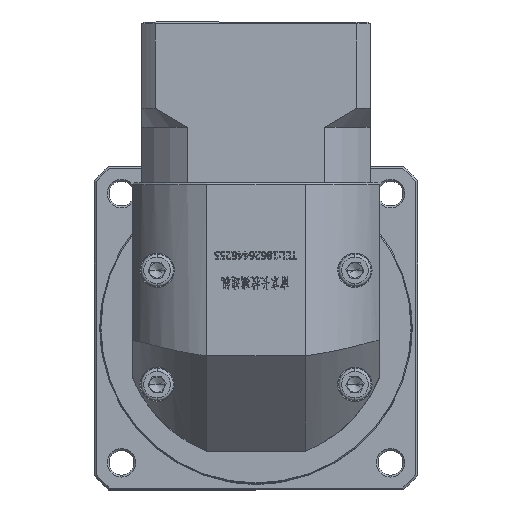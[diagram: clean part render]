
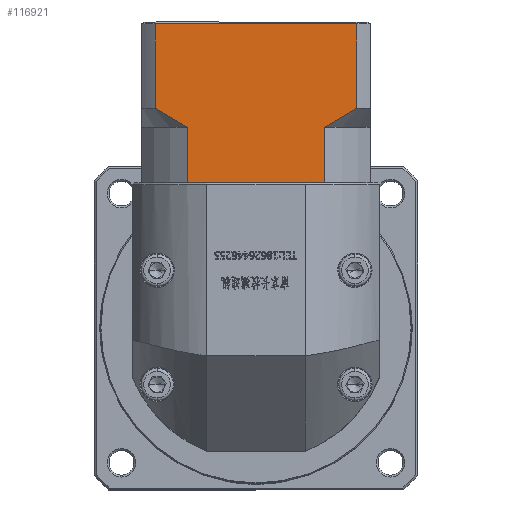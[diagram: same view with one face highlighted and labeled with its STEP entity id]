
A CAD part, top view. The second image highlights one B-rep face of the part: STEP entity #116921.
In plain terms, the highlighted planar face has unit normal (0, 0, 1).
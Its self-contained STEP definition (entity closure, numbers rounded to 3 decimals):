
#481 = ORIENTED_EDGE ( 'NONE', *, *, #75969, .T. ) ;
#1330 = CARTESIAN_POINT ( 'NONE',  ( 9.898, 56.857, 245.652 ) ) ;
#6297 = LINE ( 'NONE', #71130, #114852 ) ;
#7659 = ORIENTED_EDGE ( 'NONE', *, *, #138812, .F. ) ;
#7684 = DIRECTION ( 'NONE',  ( 1., 0., 0. ) ) ;
#8527 = EDGE_CURVE ( 'NONE', #163645, #78874, #30485, .T. ) ;
#11732 = CARTESIAN_POINT ( 'NONE',  ( -41.654, 57.759, 245.652 ) ) ;
#16339 = LINE ( 'NONE', #35744, #48333 ) ;
#24704 = VERTEX_POINT ( 'NONE', #101212 ) ;
#27763 = DIRECTION ( 'NONE',  ( 0., 0., -1. ) ) ;
#30485 = LINE ( 'NONE', #102888, #66654 ) ;
#30964 = VERTEX_POINT ( 'NONE', #76531 ) ;
#34174 = CARTESIAN_POINT ( 'NONE',  ( -41.654, 52.759, 245.652 ) ) ;
#35744 = CARTESIAN_POINT ( 'NONE',  ( -45.197, 79.959, 245.652 ) ) ;
#35857 = CARTESIAN_POINT ( 'NONE',  ( -38.916, 55.986, 245.652 ) ) ;
#39224 = VERTEX_POINT ( 'NONE', #104900 ) ;
#40221 = VERTEX_POINT ( 'NONE', #11732 ) ;
#40762 = PLANE ( 'NONE',  #171713 ) ;
#40970 = CARTESIAN_POINT ( 'NONE',  ( 1.84, 38.259, 245.652 ) ) ;
#43911 = ORIENTED_EDGE ( 'NONE', *, *, #165757, .T. ) ;
#48212 = VECTOR ( 'NONE', #115605, 1000. ) ;
#48333 = VECTOR ( 'NONE', #49482, 1000. ) ;
#49482 = DIRECTION ( 'NONE',  ( -1., 0., 0. ) ) ;
#49612 = CARTESIAN_POINT ( 'NONE',  ( -34.677, 53.507, 245.652 ) ) ;
#60087 = CARTESIAN_POINT ( 'NONE',  ( -33.225, 52.759, 245.652 ) ) ;
#65486 = CARTESIAN_POINT ( 'NONE',  ( -45.197, 38.259, 245.652 ) ) ;
#66073 = VERTEX_POINT ( 'NONE', #138917 ) ;
#66654 = VECTOR ( 'NONE', #7684, 1000. ) ;
#71130 = CARTESIAN_POINT ( 'NONE',  ( 2.831, 52.759, 245.652 ) ) ;
#72274 = FACE_OUTER_BOUND ( 'NONE', #122436, .T. ) ;
#75400 = EDGE_CURVE ( 'NONE', #109732, #30964, #138868, .T. ) ;
#75969 = EDGE_CURVE ( 'NONE', #24704, #163645, #134882, .T. ) ;
#76531 = CARTESIAN_POINT ( 'NONE',  ( 11.261, 57.759, 245.652 ) ) ;
#77671 = CARTESIAN_POINT ( 'NONE',  ( 2.831, 38.259, 245.652 ) ) ;
#78874 = VERTEX_POINT ( 'NONE', #40970 ) ;
#79331 = CARTESIAN_POINT ( 'NONE',  ( 11.261, 52.759, 245.652 ) ) ;
#81280 = VERTEX_POINT ( 'NONE', #77671 ) ;
#82910 = CARTESIAN_POINT ( 'NONE',  ( 8.518, 55.983, 245.652 ) ) ;
#84423 = LINE ( 'NONE', #34174, #48212 ) ;
#84878 = DIRECTION ( 'NONE',  ( 0., -1., 0. ) ) ;
#86686 = VERTEX_POINT ( 'NONE', #94737 ) ;
#86754 = CARTESIAN_POINT ( 'NONE',  ( 2.831, 52.759, 245.652 ) ) ;
#86822 = VECTOR ( 'NONE', #103362, 1000. ) ;
#86912 = DIRECTION ( 'NONE',  ( 0., 1., 0. ) ) ;
#90487 = ORIENTED_EDGE ( 'NONE', *, *, #91616, .T. ) ;
#90694 = LINE ( 'NONE', #60087, #162908 ) ;
#91616 = EDGE_CURVE ( 'NONE', #40221, #39224, #136248, .T. ) ;
#92066 = VECTOR ( 'NONE', #106603, 1000. ) ;
#94737 = CARTESIAN_POINT ( 'NONE',  ( 11.261, 79.959, 245.652 ) ) ;
#96599 = CARTESIAN_POINT ( 'NONE',  ( 11.261, 57.759, 245.652 ) ) ;
#98872 = VECTOR ( 'NONE', #160594, 1000. ) ;
#100143 = CARTESIAN_POINT ( 'NONE',  ( -32.234, 38.259, 245.652 ) ) ;
#100449 = EDGE_CURVE ( 'NONE', #40221, #66073, #84423, .T. ) ;
#101212 = CARTESIAN_POINT ( 'NONE',  ( -33.225, 38.259, 245.652 ) ) ;
#102888 = CARTESIAN_POINT ( 'NONE',  ( -45.197, 38.259, 245.652 ) ) ;
#103362 = DIRECTION ( 'NONE',  ( 1., 0., 0. ) ) ;
#103720 = CARTESIAN_POINT ( 'NONE',  ( -41.654, 57.759, 245.652 ) ) ;
#104900 = CARTESIAN_POINT ( 'NONE',  ( -33.225, 52.759, 245.652 ) ) ;
#106603 = DIRECTION ( 'NONE',  ( 0., -1., 0. ) ) ;
#107117 = ORIENTED_EDGE ( 'NONE', *, *, #8527, .T. ) ;
#109216 = CARTESIAN_POINT ( 'NONE',  ( -45.197, 80.459, 245.652 ) ) ;
#109732 = VERTEX_POINT ( 'NONE', #86754 ) ;
#112611 = ORIENTED_EDGE ( 'NONE', *, *, #119713, .T. ) ;
#114852 = VECTOR ( 'NONE', #84878, 1000. ) ;
#115605 = DIRECTION ( 'NONE',  ( 0., 1., 0. ) ) ;
#116921 = ADVANCED_FACE ( 'NONE', ( #72274 ), #40762, .F. ) ;
#119713 = EDGE_CURVE ( 'NONE', #78874, #81280, #122840, .T. ) ;
#122436 = EDGE_LOOP ( 'NONE', ( #170999, #43911, #159842, #90487, #7659, #481, #107117, #112611, #157792, #170072 ) ) ;
#122840 = LINE ( 'NONE', #131158, #86822 ) ;
#122864 = DIRECTION ( 'NONE',  ( 0., 1., 0. ) ) ;
#123255 = CARTESIAN_POINT ( 'NONE',  ( 4.287, 53.509, 245.652 ) ) ;
#130933 = CARTESIAN_POINT ( 'NONE',  ( -36.108, 54.31, 245.652 ) ) ;
#131158 = CARTESIAN_POINT ( 'NONE',  ( -45.197, 38.259, 245.652 ) ) ;
#131533 = EDGE_CURVE ( 'NONE', #109732, #81280, #6297, .T. ) ;
#134882 = LINE ( 'NONE', #65486, #98872 ) ;
#136248 = B_SPLINE_CURVE_WITH_KNOTS ( 'NONE', 3,
 ( #103720, #156609, #35857, #130933, #49612, #144553 ),
 .UNSPECIFIED., .F., .F.,
 ( 4, 2, 4 ),
 ( 0.052, 0.057, 0.062 ),
 .UNSPECIFIED. ) ;
#136850 = CARTESIAN_POINT ( 'NONE',  ( 2.831, 52.759, 245.652 ) ) ;
#138812 = EDGE_CURVE ( 'NONE', #24704, #39224, #90694, .T. ) ;
#138868 = B_SPLINE_CURVE_WITH_KNOTS ( 'NONE', 3,
 ( #136850, #123255, #164304, #82910, #1330, #96599 ),
 .UNSPECIFIED., .F., .F.,
 ( 4, 2, 4 ),
 ( 0.1, 0.104, 0.109 ),
 .UNSPECIFIED. ) ;
#138917 = CARTESIAN_POINT ( 'NONE',  ( -41.654, 79.959, 245.652 ) ) ;
#144553 = CARTESIAN_POINT ( 'NONE',  ( -33.225, 52.759, 245.652 ) ) ;
#153860 = EDGE_CURVE ( 'NONE', #86686, #30964, #160053, .T. ) ;
#156609 = CARTESIAN_POINT ( 'NONE',  ( -40.295, 56.859, 245.652 ) ) ;
#157792 = ORIENTED_EDGE ( 'NONE', *, *, #131533, .F. ) ;
#159842 = ORIENTED_EDGE ( 'NONE', *, *, #100449, .F. ) ;
#160053 = LINE ( 'NONE', #79331, #92066 ) ;
#160594 = DIRECTION ( 'NONE',  ( 1., 0., 0. ) ) ;
#162908 = VECTOR ( 'NONE', #86912, 1000. ) ;
#163645 = VERTEX_POINT ( 'NONE', #100143 ) ;
#164304 = CARTESIAN_POINT ( 'NONE',  ( 5.713, 54.309, 245.652 ) ) ;
#165757 = EDGE_CURVE ( 'NONE', #86686, #66073, #16339, .T. ) ;
#170072 = ORIENTED_EDGE ( 'NONE', *, *, #75400, .T. ) ;
#170999 = ORIENTED_EDGE ( 'NONE', *, *, #153860, .F. ) ;
#171713 = AXIS2_PLACEMENT_3D ( 'NONE', #109216, #27763, #122864 ) ;
